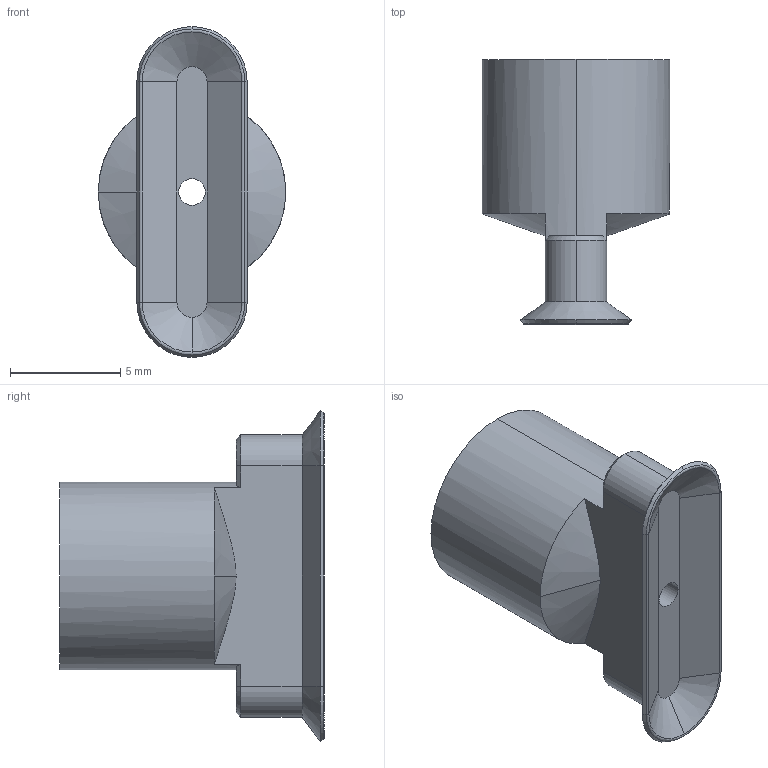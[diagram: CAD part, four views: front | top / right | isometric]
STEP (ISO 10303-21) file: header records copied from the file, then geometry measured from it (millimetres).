
FILE_DESCRIPTION (( 'STEP AP214' ), '1' );
FILE_NAME ('VS-PO515.STEP', '2019-11-13T09:06:11', ( '微软用户' ), ( '微软中国' ), 'SwSTEP 2.0', 'SolidWorks 2016', '' );
FILE_SCHEMA (( 'AUTOMOTIVE_DESIGN' ));
Length unit declared in the file: millimetre
Products named in the file (1): VS-PO515
Bounding box: 8.5 x 12 x 15 mm (x, y, z)
Volume: 413.5 mm3; surface area: 648.8 mm2
Topology: 1 solids, 1 shells, 51 faces, 118 edges, 72 vertices
Faces by surface type: plane 19, cylinder 15, cone 15, bspline 2
Entity records: 1534 total; most frequent: CARTESIAN_POINT 315, DIRECTION 264, ORIENTED_EDGE 236, EDGE_CURVE 118, AXIS2_PLACEMENT_3D 103, VERTEX_POINT 72, LINE 58, VECTOR 58
